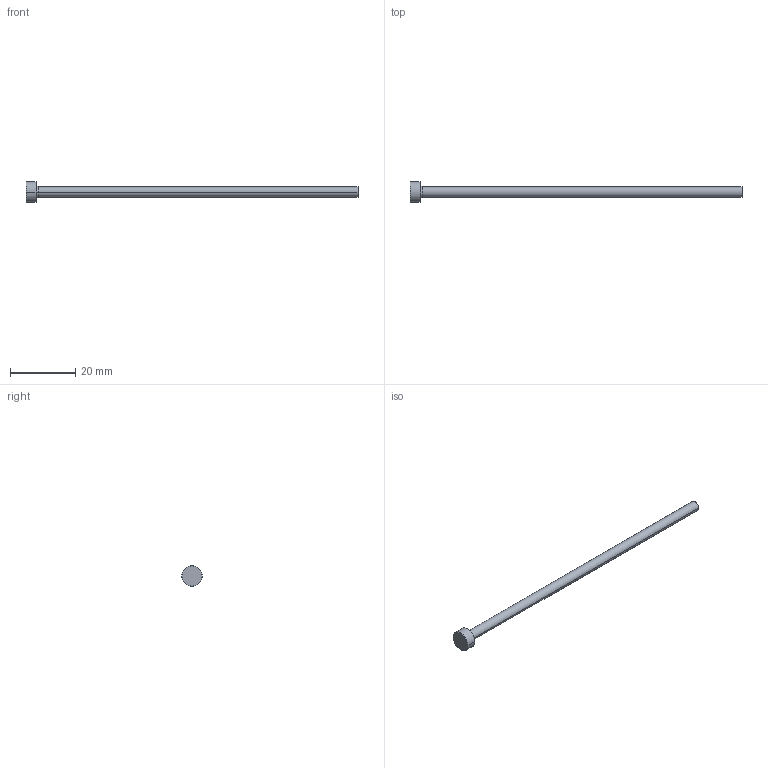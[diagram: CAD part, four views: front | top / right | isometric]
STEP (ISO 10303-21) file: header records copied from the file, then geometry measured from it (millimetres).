
FILE_DESCRIPTION (( 'STEP AP214' ), '1' );
FILE_NAME ('P9-4.STEP', '2020-03-11T17:29:06', ( '' ), ( '' ), 'SwSTEP 2.0', 'SolidWorks 2018', '' );
FILE_SCHEMA (( 'AUTOMOTIVE_DESIGN' ));
Length unit declared in the file: inch
Products named in the file (1): P9-4
Bounding box: 101.6 x 6.35 x 6.35 mm (x, y, z)
Volume: 877.2 mm3; surface area: 1100.7 mm2
Topology: 1 solids, 1 shells, 13 faces, 24 edges, 14 vertices
Faces by surface type: cone 4, cylinder 4, plane 3, torus 2
Entity records: 366 total; most frequent: DIRECTION 68, CARTESIAN_POINT 52, ORIENTED_EDGE 48, AXIS2_PLACEMENT_3D 30, EDGE_CURVE 24, CIRCLE 16, VERTEX_POINT 14, EDGE_LOOP 14
